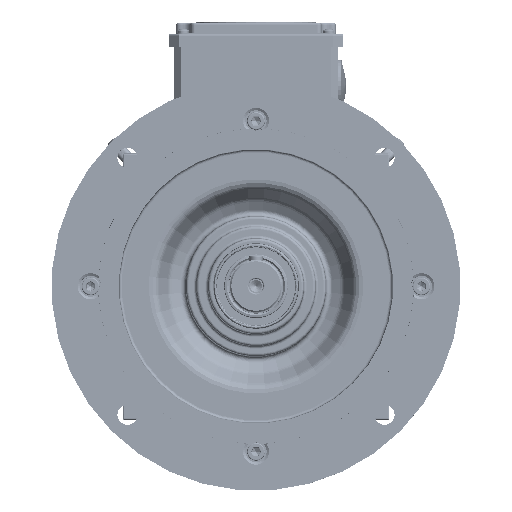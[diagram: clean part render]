
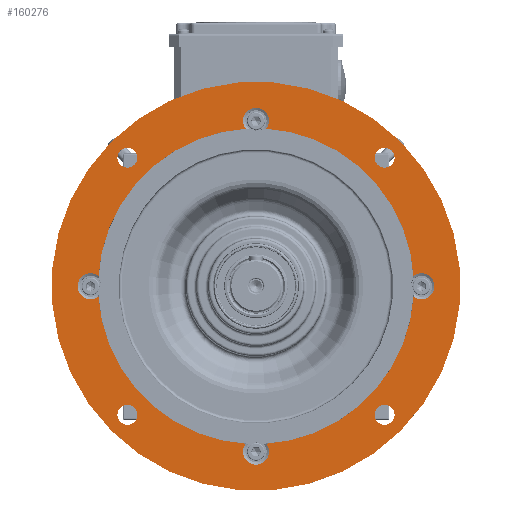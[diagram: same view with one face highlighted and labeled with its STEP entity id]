
A CAD part, top view. The second image highlights one B-rep face of the part: STEP entity #160276.
In plain terms, the highlighted planar face has unit normal (0, 0, 1).
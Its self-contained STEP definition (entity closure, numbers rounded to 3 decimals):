
#50425=PLANE('',#207035);
#56075=EDGE_LOOP('',(#80889));
#56076=EDGE_LOOP('',(#80890));
#56077=EDGE_LOOP('',(#80891));
#56078=EDGE_LOOP('',(#80892));
#56079=EDGE_LOOP('',(#80893,#80894,#80895,#80896,#80897,#80898,#80899,#80900));
#56080=EDGE_LOOP('',(#80901));
#80889=ORIENTED_EDGE('',*,*,#132808,.F.);
#80890=ORIENTED_EDGE('',*,*,#132809,.F.);
#80891=ORIENTED_EDGE('',*,*,#132810,.F.);
#80892=ORIENTED_EDGE('',*,*,#132811,.F.);
#80893=ORIENTED_EDGE('',*,*,#132812,.T.);
#80894=ORIENTED_EDGE('',*,*,#132813,.T.);
#80895=ORIENTED_EDGE('',*,*,#132814,.T.);
#80896=ORIENTED_EDGE('',*,*,#132815,.T.);
#80897=ORIENTED_EDGE('',*,*,#132816,.T.);
#80898=ORIENTED_EDGE('',*,*,#132817,.T.);
#80899=ORIENTED_EDGE('',*,*,#132818,.T.);
#80900=ORIENTED_EDGE('',*,*,#132819,.T.);
#80901=ORIENTED_EDGE('',*,*,#132820,.T.);
#132808=EDGE_CURVE('',#177615,#177615,#193713,.T.);
#132809=EDGE_CURVE('',#177616,#177616,#193714,.T.);
#132810=EDGE_CURVE('',#177617,#177617,#193715,.T.);
#132811=EDGE_CURVE('',#177618,#177618,#193716,.T.);
#132812=EDGE_CURVE('',#177619,#177620,#193717,.T.);
#132813=EDGE_CURVE('',#177620,#177621,#193718,.T.);
#132814=EDGE_CURVE('',#177621,#177622,#193719,.T.);
#132815=EDGE_CURVE('',#177622,#177623,#193720,.T.);
#132816=EDGE_CURVE('',#177623,#177624,#193721,.T.);
#132817=EDGE_CURVE('',#177624,#177625,#193722,.T.);
#132818=EDGE_CURVE('',#177625,#177626,#193723,.T.);
#132819=EDGE_CURVE('',#177626,#177619,#193724,.T.);
#132820=EDGE_CURVE('',#177627,#177627,#193725,.T.);
#160276=ADVANCED_FACE('',(#172028,#172029,#172030,#172031,#172032,#172033),
#50425,.T.);
#172028=FACE_BOUND('',#56075,.T.);
#172029=FACE_BOUND('',#56076,.T.);
#172030=FACE_BOUND('',#56077,.T.);
#172031=FACE_BOUND('',#56078,.T.);
#172032=FACE_BOUND('',#56079,.T.);
#172033=FACE_BOUND('',#56080,.T.);
#177615=VERTEX_POINT('',#335743);
#177616=VERTEX_POINT('',#335745);
#177617=VERTEX_POINT('',#335747);
#177618=VERTEX_POINT('',#335749);
#177619=VERTEX_POINT('',#335751);
#177620=VERTEX_POINT('',#335752);
#177621=VERTEX_POINT('',#335754);
#177622=VERTEX_POINT('',#335756);
#177623=VERTEX_POINT('',#335758);
#177624=VERTEX_POINT('',#335760);
#177625=VERTEX_POINT('',#335762);
#177626=VERTEX_POINT('',#335764);
#177627=VERTEX_POINT('',#335767);
#193713=CIRCLE('',#207022,7.25);
#193714=CIRCLE('',#207023,7.25);
#193715=CIRCLE('',#207024,7.25);
#193716=CIRCLE('',#207025,7.25);
#193717=CIRCLE('',#207026,115.);
#193718=CIRCLE('',#207027,9.482);
#193719=CIRCLE('',#207028,115.);
#193720=CIRCLE('',#207029,9.482);
#193721=CIRCLE('',#207030,115.);
#193722=CIRCLE('',#207031,9.482);
#193723=CIRCLE('',#207032,115.);
#193724=CIRCLE('',#207033,9.482);
#193725=CIRCLE('',#207034,149.);
#207022=AXIS2_PLACEMENT_3D('',#335742,#235954,#235955);
#207023=AXIS2_PLACEMENT_3D('',#335744,#235956,#235957);
#207024=AXIS2_PLACEMENT_3D('',#335746,#235958,#235959);
#207025=AXIS2_PLACEMENT_3D('',#335748,#235960,#235961);
#207026=AXIS2_PLACEMENT_3D('',#335750,#235962,#235963);
#207027=AXIS2_PLACEMENT_3D('',#335753,#235964,#235965);
#207028=AXIS2_PLACEMENT_3D('',#335755,#235966,#235967);
#207029=AXIS2_PLACEMENT_3D('',#335757,#235968,#235969);
#207030=AXIS2_PLACEMENT_3D('',#335759,#235970,#235971);
#207031=AXIS2_PLACEMENT_3D('',#335761,#235972,#235973);
#207032=AXIS2_PLACEMENT_3D('',#335763,#235974,#235975);
#207033=AXIS2_PLACEMENT_3D('',#335765,#235976,#235977);
#207034=AXIS2_PLACEMENT_3D('',#335766,#235978,#235979);
#207035=AXIS2_PLACEMENT_3D('',#335768,#235980,#235981);
#235954=DIRECTION('',(0.,0.,1.));
#235955=DIRECTION('',(0.707,-0.707,0.));
#235956=DIRECTION('',(0.,0.,1.));
#235957=DIRECTION('',(0.707,0.707,0.));
#235958=DIRECTION('',(0.,0.,1.));
#235959=DIRECTION('',(-0.707,0.707,0.));
#235960=DIRECTION('',(0.,0.,1.));
#235961=DIRECTION('',(-0.707,-0.707,0.));
#235962=DIRECTION('',(0.,0.,-1.));
#235963=DIRECTION('',(0.707,-0.707,0.));
#235964=DIRECTION('',(0.,0.,-1.));
#235965=DIRECTION('',(-0.707,0.707,0.));
#235966=DIRECTION('',(0.,0.,-1.));
#235967=DIRECTION('',(0.707,-0.707,0.));
#235968=DIRECTION('',(0.,0.,-1.));
#235969=DIRECTION('',(-0.707,0.707,0.));
#235970=DIRECTION('',(0.,0.,-1.));
#235971=DIRECTION('',(0.707,-0.707,0.));
#235972=DIRECTION('',(0.,0.,-1.));
#235973=DIRECTION('',(-0.707,0.707,0.));
#235974=DIRECTION('',(0.,0.,-1.));
#235975=DIRECTION('',(0.707,-0.707,0.));
#235976=DIRECTION('',(0.,0.,-1.));
#235977=DIRECTION('',(-0.707,0.707,0.));
#235978=DIRECTION('',(0.,0.,1.));
#235979=DIRECTION('',(0.707,-0.707,0.));
#235980=DIRECTION('',(0.,0.,1.));
#235981=DIRECTION('',(-0.707,0.707,0.));
#335742=CARTESIAN_POINT('',(93.691,93.688,72.489));
#335743=CARTESIAN_POINT('',(98.817,88.561,72.49));
#335744=CARTESIAN_POINT('',(-93.693,93.688,72.492));
#335745=CARTESIAN_POINT('',(-88.566,98.814,72.491));
#335746=CARTESIAN_POINT('',(-93.693,-93.695,72.5));
#335747=CARTESIAN_POINT('',(-98.819,-88.569,72.5));
#335748=CARTESIAN_POINT('',(93.691,-93.695,72.498));
#335749=CARTESIAN_POINT('',(88.564,-98.822,72.498));
#335750=CARTESIAN_POINT('',(-0.001,-0.004,
72.495));
#335751=CARTESIAN_POINT('',(-114.753,7.538,72.496));
#335752=CARTESIAN_POINT('',(-7.542,114.749,72.49));
#335753=CARTESIAN_POINT('',(-0.001,120.496,72.489));
#335754=CARTESIAN_POINT('',(7.541,114.749,72.489));
#335755=CARTESIAN_POINT('',(-0.001,-0.004,
72.495));
#335756=CARTESIAN_POINT('',(114.752,7.538,72.493));
#335757=CARTESIAN_POINT('',(120.499,-0.004,72.493));
#335758=CARTESIAN_POINT('',(114.752,-7.545,72.494));
#335759=CARTESIAN_POINT('',(-0.001,-0.004,
72.495));
#335760=CARTESIAN_POINT('',(7.541,-114.756,72.5));
#335761=CARTESIAN_POINT('',(-0.001,-120.504,72.5));
#335762=CARTESIAN_POINT('',(-7.542,-114.756,72.5));
#335763=CARTESIAN_POINT('',(-0.001,-0.004,
72.495));
#335764=CARTESIAN_POINT('',(-114.753,-7.545,72.496));
#335765=CARTESIAN_POINT('',(-120.501,-0.004,72.496));
#335766=CARTESIAN_POINT('',(-0.001,-0.004,
72.495));
#335767=CARTESIAN_POINT('',(105.358,-105.363,72.498));
#335768=CARTESIAN_POINT('',(-0.001,-0.004,
72.495));
